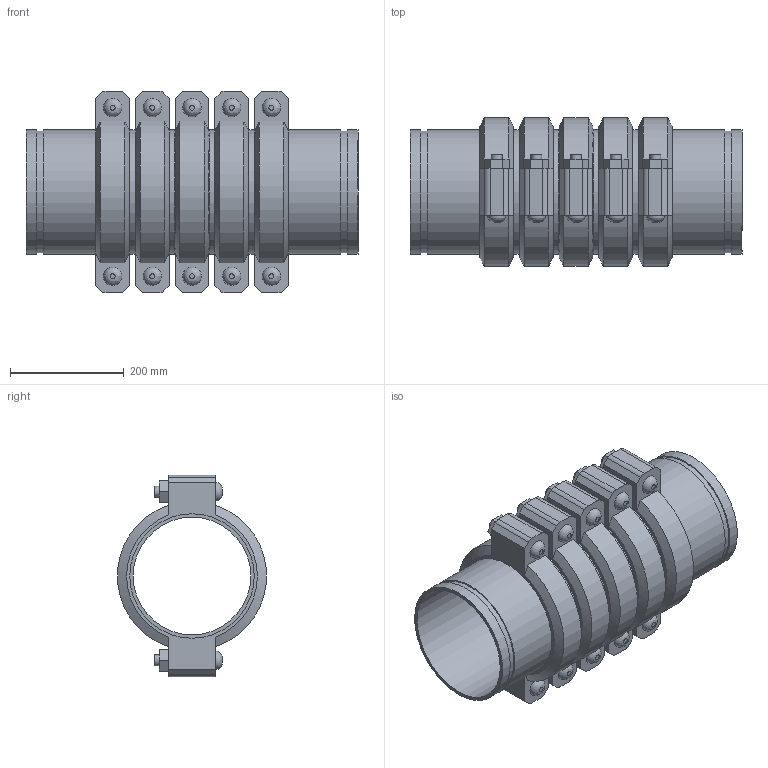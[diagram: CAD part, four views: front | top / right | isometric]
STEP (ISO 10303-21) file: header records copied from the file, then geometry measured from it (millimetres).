
FILE_DESCRIPTION(/* description */ ('VIC SS EXPANSION JOINT 5 COUPLINGS COMPRESSED STYLE 155P (OGS) (POTABLE WATER) ','CAx-IF Rec.Pracs.---Representation and Presentation of Product Manufacturing Information (PMI)---4.0---2014-10-13'),/* implementation_level */ '2;1');
FILE_NAME(/* name */ 'C:\Users\kkamble\AppData\Roaming\Autodesk\ApplicationPlugins\Victaulic.Temp\A410\Victaulic_SS_Expansion Joint_Compressed_5 Couplings_Style 155P (OGS)-Potable Water_5 Coup_Comp_8 (200).stp',/* time_stamp */ '2021-07-16T17:13:34+06:00',/* author */ ('kkamble'),/* organization */ ('Victaulic'),/* preprocessor_version */ 'ST-DEVELOPER v17.2',/* originating_system */ 'Autodesk Inventor 2019',/* authorisation */ '');
FILE_SCHEMA (('AP242_MANAGED_MODEL_BASED_3D_ENGINEERING_MIM_LF { 1 0 10303 442 1 1 4 }'));
Length unit declared in the file: inch
Products named in the file (4): 155P-08.0; Nipple-08.0; Nipple-08.0_1; 075-08.0
Assembly tree (11 placements, depth 2):
  155P-08.0
    Nipple-08.0  x2
    Nipple-08.0_1  x4
    075-08.0  x5
Bounding box: 584.2 x 261.72 x 354.84 mm (x, y, z)
Volume: 9059940.5 mm3; surface area: 1702440.7 mm2
Topology: 11 solids, 21 shells, 337 faces, 815 edges, 574 vertices
Faces by surface type: plane 206, cylinder 101, cone 20, bspline 10
Full cylindrical faces by diameter (mm): 19.05 x20, 21.209 x10, 206.985 x6, 214.401 x12, 219.075 x23
Entity records: 2689 total; most frequent: CARTESIAN_POINT 481, DIRECTION 447, ORIENTED_EDGE 374, EDGE_CURVE 187, AXIS2_PLACEMENT_3D 178, VERTEX_POINT 134, EDGE_LOOP 101, LINE 91
